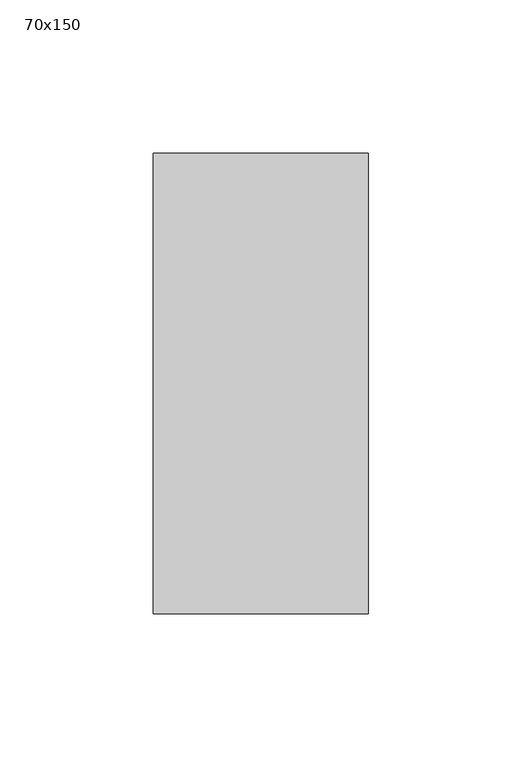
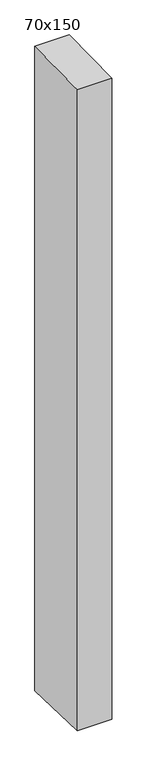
"""IFC4 building model written with IfcOpenShell, lengths in millimetres: member geometry, 長方形のマリオン : 70x150."""

from ifc_helpers import new_model, si_unit, frame, origin, place, context, project, spatial, polyline, outline, extrude, source, transform, mapped, element, save


def member_70x150_2ddcd813(model_context):
    return source(origin(), model_context, "Body", "SweptSolid", [
        extrude(outline(polyline([(-75.0, -1.3892003), (75.0, 1.3892003), (75.0, -1384.6614195), (-75.0, -1379.3489896), (-75.0, -1.3892003)])), frame((-70.0, 0.0, 0.0), z_axis=(1.0, 0.0, 0.0), x_axis=(0.0, 1.0, 0.0)), (0.0, 0.0, 1.0), 70.0),
    ])


if __name__ == "__main__":
    model = new_model("IFC4")
    model_context = context("Model", 3, world=origin())
    ifc_project = project(units=[si_unit("LENGTHUNIT", "METRE", prefix="MILLI")], contexts=[model_context])
    site = spatial("IfcSite", under=ifc_project)
    building = spatial("IfcBuilding", under=site)
    placement = place(None, origin())
    member_70x150_shape = member_70x150_2ddcd813(model_context)
    element("IfcMember", 1, ObjectType="長方形のマリオン : 70x150", at=placement, inside=building, context=model_context, shape_type="MappedRepresentation", body=[
        mapped(member_70x150_shape, transform((0.0, 0.0, 0.0), x_axis=(1.0, 0.0, 0.0), y_axis=(0.0, 1.0, 0.0), z_axis=(0.0, 0.0, 1.0))),
    ])
    save(model, "model.ifc")
